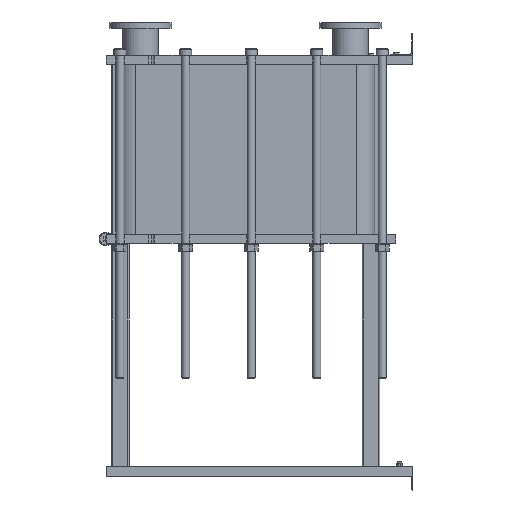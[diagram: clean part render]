
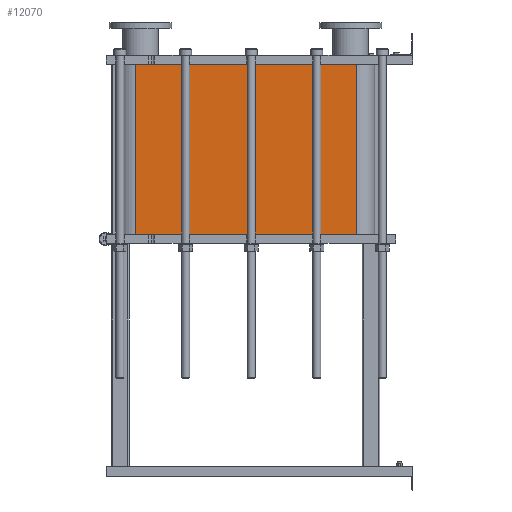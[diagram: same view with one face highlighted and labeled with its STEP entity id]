
A CAD part, left-side view. The second image highlights one B-rep face of the part: STEP entity #12070.
In plain terms, the highlighted planar face has unit normal (-1, 0, 0).
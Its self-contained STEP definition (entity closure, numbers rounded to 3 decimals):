
#1064=LINE('',#21140,#2164);
#1065=LINE('',#21144,#2165);
#1066=LINE('',#21146,#2166);
#1067=LINE('',#21147,#2167);
#2164=VECTOR('',#15790,10.);
#2165=VECTOR('',#15795,10.);
#2166=VECTOR('',#15796,10.);
#2167=VECTOR('',#15797,10.);
#3304=FACE_OUTER_BOUND('',#4091,.T.);
#4091=EDGE_LOOP('',(#9793,#9794,#9795,#9796));
#5677=VERTEX_POINT('',#21137);
#5678=VERTEX_POINT('',#21139);
#5679=VERTEX_POINT('',#21143);
#5680=VERTEX_POINT('',#21145);
#7118=EDGE_CURVE('',#5678,#5677,#1064,.T.);
#7120=EDGE_CURVE('',#5677,#5679,#1065,.T.);
#7121=EDGE_CURVE('',#5680,#5679,#1066,.T.);
#7122=EDGE_CURVE('',#5680,#5678,#1067,.T.);
#9793=ORIENTED_EDGE('',*,*,#7120,.T.);
#9794=ORIENTED_EDGE('',*,*,#7121,.F.);
#9795=ORIENTED_EDGE('',*,*,#7122,.T.);
#9796=ORIENTED_EDGE('',*,*,#7118,.T.);
#11441=PLANE('',#13191);
#12070=ADVANCED_FACE('',(#3304),#11441,.T.);
#13191=AXIS2_PLACEMENT_3D('',#21142,#15793,#15794);
#15790=DIRECTION('',(0.,0.,-1.));
#15793=DIRECTION('center_axis',(-1.,0.,0.));
#15794=DIRECTION('ref_axis',(0.,1.,0.));
#15795=DIRECTION('',(0.,-1.,0.));
#15796=DIRECTION('',(0.,0.,-1.));
#15797=DIRECTION('',(0.,1.,0.));
#21137=CARTESIAN_POINT('',(-248.152,1243.818,-762.45));
#21139=CARTESIAN_POINT('',(-248.152,1243.818,0.));
#21140=CARTESIAN_POINT('',(-248.152,1243.818,0.));
#21142=CARTESIAN_POINT('Origin',(-248.152,251.818,0.));
#21143=CARTESIAN_POINT('',(-248.152,251.818,-762.45));
#21144=CARTESIAN_POINT('',(-248.152,499.818,-762.45));
#21145=CARTESIAN_POINT('',(-248.152,251.818,0.));
#21146=CARTESIAN_POINT('',(-248.152,251.818,0.));
#21147=CARTESIAN_POINT('',(-248.152,251.818,0.));
